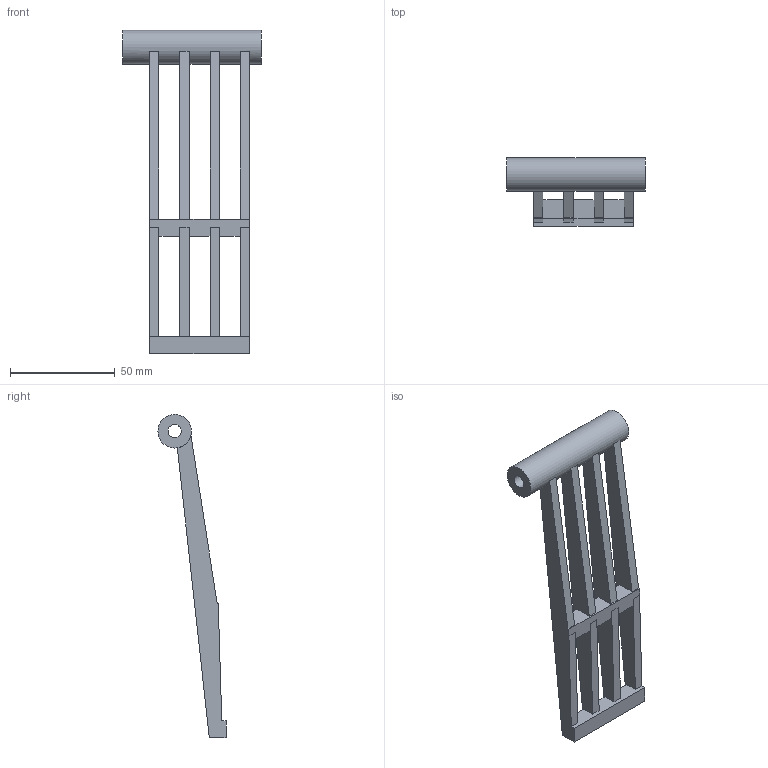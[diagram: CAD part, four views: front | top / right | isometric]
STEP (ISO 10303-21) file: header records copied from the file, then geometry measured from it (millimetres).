
FILE_DESCRIPTION(('Open CASCADE Model'),'2;1');
FILE_NAME('Open CASCADE Shape Model','2026-10-16T03:37:36',('Author'),( 'Open CASCADE'),'Open CASCADE STEP processor 7.9','Open CASCADE 7.9' ,'Unknown');
FILE_SCHEMA(('AUTOMOTIVE_DESIGN { 1 0 10303 214 1 1 1 1 }'));
Length unit declared in the file: millimetre
Products named in the file (1): Open CASCADE STEP translator 7.9 17
Bounding box: 66 x 32.5 x 154 mm (x, y, z)
Volume: 37544 mm3; surface area: 21287.7 mm2
Topology: 1 solids, 1 shells, 38 faces, 126 edges, 82 vertices
Faces by surface type: plane 36, cylinder 2
Full cylindrical faces by diameter (mm): 6.35 x1, 16 x1
Entity records: 2953 total; most frequent: CARTESIAN_POINT 657, DIRECTION 355, ORIENTED_EDGE 252, PCURVE 252, DEFINITIONAL_REPRESENTATION 252, LINE 250, VECTOR 250, EDGE_CURVE 126
